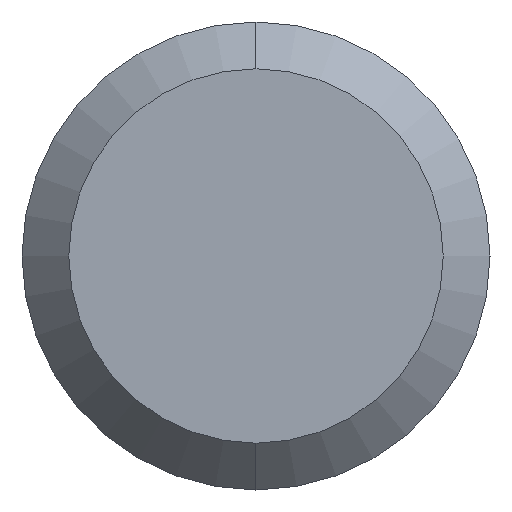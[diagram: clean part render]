
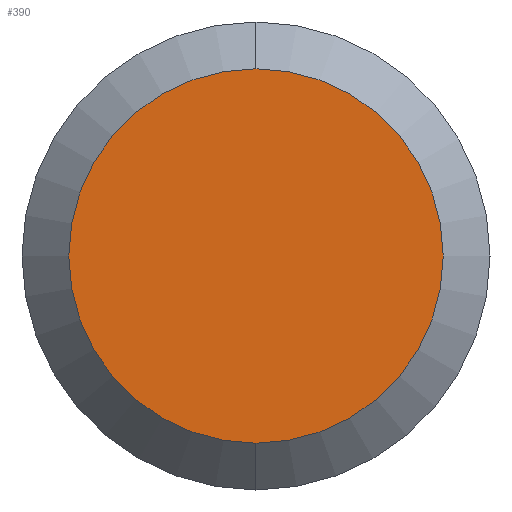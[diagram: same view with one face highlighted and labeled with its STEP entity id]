
A CAD part, left-side view. The second image highlights one B-rep face of the part: STEP entity #390.
In plain terms, the highlighted planar face has unit normal (-1, 0, 0).
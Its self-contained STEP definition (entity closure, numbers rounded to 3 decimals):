
#9 = CARTESIAN_POINT ( 'NONE',  ( 0., 0., -1.6 ) ) ;
#10 = CARTESIAN_POINT ( 'NONE',  ( 0., 0., 0. ) ) ;
#23 = PLANE ( 'NONE',  #154 ) ;
#28 = ORIENTED_EDGE ( 'NONE', *, *, #262, .T. ) ;
#48 = DIRECTION ( 'NONE',  ( 0., 0., 1. ) ) ;
#57 = CARTESIAN_POINT ( 'NONE',  ( 0., 0., 1.6 ) ) ;
#78 = DIRECTION ( 'NONE',  ( -1., 0., 0. ) ) ;
#123 = DIRECTION ( 'NONE',  ( -1., 0., 0. ) ) ;
#126 = ORIENTED_EDGE ( 'NONE', *, *, #223, .T. ) ;
#127 = FACE_OUTER_BOUND ( 'NONE', #450, .T. ) ;
#133 = VERTEX_POINT ( 'NONE', #9 ) ;
#142 = CIRCLE ( 'NONE', #364, 1.6 ) ;
#154 = AXIS2_PLACEMENT_3D ( 'NONE', #196, #407, #282 ) ;
#196 = CARTESIAN_POINT ( 'NONE',  ( 0., 1.6, 0. ) ) ;
#223 = EDGE_CURVE ( 'NONE', #133, #298, #309, .T. ) ;
#224 = CARTESIAN_POINT ( 'NONE',  ( 0., 0., 0. ) ) ;
#262 = EDGE_CURVE ( 'NONE', #298, #133, #142, .T. ) ;
#282 = DIRECTION ( 'NONE',  ( 0., 0., -1. ) ) ;
#298 = VERTEX_POINT ( 'NONE', #57 ) ;
#309 = CIRCLE ( 'NONE', #436, 1.6 ) ;
#318 = DIRECTION ( 'NONE',  ( 0., 0., 1. ) ) ;
#364 = AXIS2_PLACEMENT_3D ( 'NONE', #224, #78, #318 ) ;
#390 = ADVANCED_FACE ( 'NONE', ( #127 ), #23, .F. ) ;
#407 = DIRECTION ( 'NONE',  ( 1., 0., 0. ) ) ;
#436 = AXIS2_PLACEMENT_3D ( 'NONE', #10, #123, #48 ) ;
#450 = EDGE_LOOP ( 'NONE', ( #126, #28 ) ) ;
